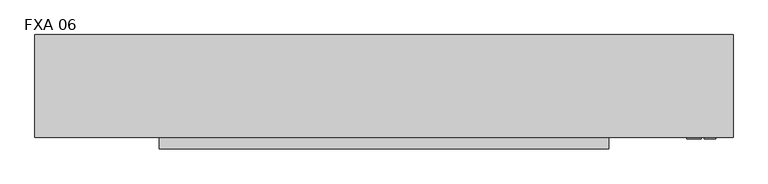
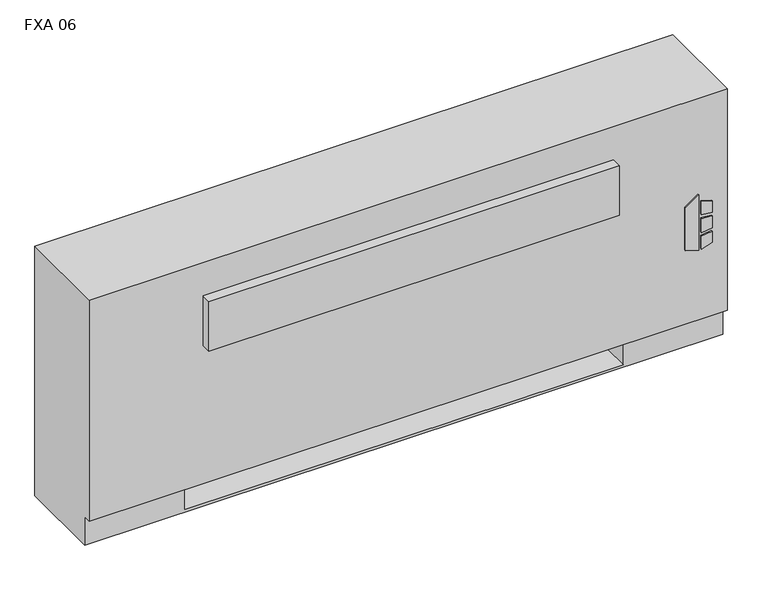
"""IFC4 building model written with IfcOpenShell, lengths in millimetres: proxy geometry, Vertical_Fan_Coil_Unit_-_FXA_-_IEC_-_4-Pipe_FS-FR_LH_2022 : FXA 06."""

from ifc_helpers import new_model, si_unit, point, frame, frame_2d, origin, place, context, project, spatial, polyline, circle_curve, trimmed, segment, composite_curve, outline, extrude, source, transform, mapped, element, save
from ifc_brep_helpers import plane_surface, revolved_surface, advanced_brep


def fxa_06_ef809db3(model_context):
    return source(origin(), model_context, "Body", "SolidModel", [
        extrude(outline(polyline([(263.9480703, 823.9868862), (254.0, 856.1602728), (396.1709244, 856.1602728), (373.1489183, 823.9868862), (263.9480703, 823.9868862)])), frame((0.0, 12.7, 0.0), z_axis=(0.0, 1.0, 0.0), x_axis=(0.0, 0.0, 1.0)), (0.0, 0.0, 1.0), 3.175),
        extrude(outline(polyline([(342.9473557, 862.9186058), (339.7449632, 889.0), (368.9738042, 889.0), (377.0382193, 862.9186058), (342.9473557, 862.9186058)])), frame((0.0, 12.7, 0.0), z_axis=(0.0, 1.0, 0.0), x_axis=(0.0, 0.0, 1.0)), (0.0, 0.0, 1.0), 3.175),
        extrude(outline(polyline([(291.0838288, 889.0), (287.4183279, 862.9186058), (254.0, 862.9186058), (262.6342372, 889.0), (291.0838288, 889.0)])), frame((0.0, 12.7, 0.0), z_axis=(0.0, 1.0, 0.0), x_axis=(0.0, 0.0, 1.0)), (0.0, 0.0, 1.0), 3.175),
        extrude(outline(polyline([(330.3989903, 889.0), (332.6808166, 862.9186058), (296.7432681, 862.9186058), (299.4845331, 889.0), (330.3989903, 889.0)])), frame((0.0, 12.7, 0.0), z_axis=(0.0, 1.0, 0.0), x_axis=(0.0, 0.0, 1.0)), (0.0, 0.0, 1.0), 3.175),
        extrude(outline(polyline([(806.45, 223.266), (806.45, 81.534), (685.8, 81.534), (685.8, 223.266), (806.45, 223.266)])), frame((0.0, 0.0, 327.025), z_axis=(0.0, 0.0, 1.0), x_axis=(1.0, 0.0, 0.0)), (0.0, 0.0, 1.0), 260.35),
        extrude(outline(composite_curve([segment(trimmed(circle_curve(frame_2d((-444.5, 130.175)), 9.525), [point((-454.025, 130.175))], [point((-434.975, 130.175))], False, "CARTESIAN"), True, "CONTINUOUS"), segment(trimmed(circle_curve(frame_2d((-444.5, 130.175)), 9.525), [point((-434.975, 130.175))], [point((-454.025, 130.175))], False, "CARTESIAN"), True, "CONTINUOUS")], self_intersect=False)), frame((0.0, 0.0, 101.6), z_axis=(0.0, 0.0, 1.0), x_axis=(1.0, 0.0, 0.0)), (0.0, 0.0, 1.0), 25.4),
        extrude(outline(polyline([(-546.1, 63.5), (-546.1, 196.85), (-381.0, 196.85), (-381.0, 63.5), (-546.1, 63.5)])), frame((0.0, 0.0, 127.0), z_axis=(0.0, 0.0, 1.0), x_axis=(1.0, 0.0, 0.0)), (0.0, 0.0, 1.0), 50.8),
        extrude(outline(polyline([(650.875, -9.525), (-346.075, -9.525), (-346.075, 15.875), (650.875, 15.875), (650.875, -9.525)])), frame((0.0, 0.0, 428.625), z_axis=(0.0, 0.0, 1.0), x_axis=(1.0, 0.0, 0.0)), (0.0, 0.0, 1.0), 127.0),
        extrude(outline(composite_curve([segment(trimmed(circle_curve(frame_2d((107.95, 457.2)), 7.9375), [point((107.95, 465.1375))], [point((107.95, 449.2625))], False, "CARTESIAN"), True, "CONTINUOUS"), segment(trimmed(circle_curve(frame_2d((107.95, 457.2)), 7.9375), [point((107.95, 449.2625))], [point((107.95, 465.1375))], False, "CARTESIAN"), True, "CONTINUOUS")], self_intersect=False)), frame((-431.8, 0.0, 0.0), z_axis=(1.0, 0.0, 0.0), x_axis=(0.0, 1.0, 0.0)), (0.0, 0.0, 1.0), 50.8),
        extrude(outline(composite_curve([segment(trimmed(circle_curve(frame_2d((155.575, 431.8)), 7.9375), [point((155.575, 439.7375))], [point((155.575, 423.8625))], False, "CARTESIAN"), True, "CONTINUOUS"), segment(trimmed(circle_curve(frame_2d((155.575, 431.8)), 7.9375), [point((155.575, 423.8625))], [point((155.575, 439.7375))], False, "CARTESIAN"), True, "CONTINUOUS")], self_intersect=False)), frame((-431.8, 0.0, 0.0), z_axis=(1.0, 0.0, 0.0), x_axis=(0.0, 1.0, 0.0)), (0.0, 0.0, 1.0), 50.8),
        extrude(outline(composite_curve([segment(trimmed(circle_curve(frame_2d((130.175, 554.99)), 7.9502), [point((130.175, 562.9402))], [point((130.175, 547.0398))], False, "CARTESIAN"), True, "CONTINUOUS"), segment(trimmed(circle_curve(frame_2d((130.175, 554.99)), 7.9502), [point((130.175, 547.0398))], [point((130.175, 562.9402))], False, "CARTESIAN"), True, "CONTINUOUS")], self_intersect=False)), frame((-431.8, 0.0, 0.0), z_axis=(1.0, 0.0, 0.0), x_axis=(0.0, 1.0, 0.0)), (0.0, 0.0, 1.0), 50.8),
        extrude(outline(composite_curve([segment(trimmed(circle_curve(frame_2d((53.975, 416.56)), 7.9502), [point((53.975, 424.5102))], [point((53.975, 408.6098))], False, "CARTESIAN"), True, "CONTINUOUS"), segment(trimmed(circle_curve(frame_2d((53.975, 416.56)), 7.9502), [point((53.975, 408.6098))], [point((53.975, 424.5102))], False, "CARTESIAN"), True, "CONTINUOUS")], self_intersect=False)), frame((-431.8, 0.0, 0.0), z_axis=(1.0, 0.0, 0.0), x_axis=(0.0, 1.0, 0.0)), (0.0, 0.0, 1.0), 50.8),
        advanced_brep(
        [(927.1, 244.475, 641.35), (-622.3, 244.475, 641.35), (-622.3, 15.875, 641.35), (927.1, 15.875, 641.35), (-622.3, 244.475, 0.0), (927.1, 244.475, 0.0), (927.1, 34.925, 0.0), (-622.3, 34.925, 0.0), (685.8, 244.475, 73.025), (914.4, 244.475, 73.025), (914.4, 244.475, 628.65), (685.8, 244.475, 628.65), (685.8, 244.475, 414.8650565), (714.375, 244.475, 414.8650565), (714.375, 244.475, 385.2349435), (685.8, 244.475, 385.2349435), (685.8, 244.475, 287.3375), (714.375, 244.475, 287.3375), (714.375, 244.475, 258.7625), (685.8, 244.475, 258.7625), (685.8, 244.475, 141.2875), (714.375, 244.475, 141.2875), (714.375, 244.475, 112.7125), (685.8, 244.475, 112.7125), (-381.0, 244.475, 628.65), (-609.6, 244.475, 628.65), (-609.6, 244.475, 73.025), (-381.0, 244.475, 73.025), (-381.0, 244.475, 112.7125), (-409.575, 244.475, 112.7125), (-409.575, 244.475, 141.2875), (-381.0, 244.475, 141.2875), (-381.0, 244.475, 258.7625), (-409.575, 244.475, 258.7625), (-409.575, 244.475, 287.3375), (-381.0, 244.475, 287.3375), (-381.0, 244.475, 385.2349435), (-409.575, 244.475, 385.2349435), (-409.575, 244.475, 414.8650565), (-381.0, 244.475, 414.8650565), (704.0626, 244.475, 127.0), (692.9374, 244.475, 127.0), (704.0626, 244.475, 400.05), (692.9374, 244.475, 400.05), (704.0626, 244.475, 273.05), (692.9374, 244.475, 273.05), (-388.1374, 244.475, 127.0), (-399.2626, 244.475, 127.0), (-388.1374, 244.475, 273.05), (-399.2626, 244.475, 273.05), (-388.1374, 244.475, 400.05), (-399.2626, 244.475, 400.05), (-622.3, 34.925, 73.025), (-622.3, 15.875, 73.025), (927.1, 15.875, 73.025), (927.1, 34.925, 73.025), (-381.0, 34.925, 73.025), (-381.0, 219.075, 73.025), (685.8, 219.075, 73.025), (685.8, 34.925, 73.025), (685.8, 34.925, 6.35), (-381.0, 34.925, 6.35), (685.8, 41.275, 628.65), (914.4, 41.275, 628.65), (914.4, 41.275, 73.025), (685.8, 41.275, 73.025), (-381.0, 41.275, 628.65), (-381.0, 41.275, 73.025), (-609.6, 41.275, 73.025), (-609.6, 41.275, 628.65), (685.8, 219.075, 73.025), (685.8, 238.125, 112.7125), (685.8, 238.125, 141.2875), (685.8, 238.125, 258.7625), (685.8, 238.125, 287.3375), (685.8, 238.125, 385.2349435), (685.8, 238.125, 414.8650565), (-381.0, 219.075, 73.025), (-381.0, 238.125, 414.8650565), (-381.0, 238.125, 385.2349435), (-381.0, 238.125, 287.3375), (-381.0, 238.125, 258.7625), (-381.0, 238.125, 141.2875), (-381.0, 238.125, 112.7125), (-381.0, 219.075, 6.35), (685.8, 219.075, 6.35), (714.375, 238.125, 112.7125), (714.375, 238.125, 141.2875), (692.9374, 238.125, 127.0), (704.0626, 238.125, 127.0), (714.375, 238.125, 258.7625), (714.375, 238.125, 287.3375), (692.9374, 238.125, 273.05), (704.0626, 238.125, 273.05), (714.375, 238.125, 385.2349435), (714.375, 238.125, 414.8650565), (692.9374, 238.125, 400.05), (704.0626, 238.125, 400.05), (-409.575, 238.125, 141.2875), (-409.575, 238.125, 112.7125), (-399.2626, 238.125, 127.0), (-388.1374, 238.125, 127.0), (-409.575, 238.125, 287.3375), (-409.575, 238.125, 258.7625), (-399.2626, 238.125, 273.05), (-388.1374, 238.125, 273.05), (-409.575, 238.125, 414.8650565), (-409.575, 238.125, 385.2349435), (-399.2626, 238.125, 400.05), (-388.1374, 238.125, 400.05)],
        [
            (0, 1),
            (1, 2),
            (2, 3),
            (3, 0),
            (4, 5),
            (5, 6),
            (6, 7),
            (7, 4),
            (0, 5),
            (4, 1),
            (8, 9),
            (9, 10),
            (10, 11),
            (11, 12),
            (12, 13),
            (13, 14),
            (14, 15),
            (15, 16),
            (16, 17),
            (17, 18),
            (18, 19),
            (19, 20),
            (20, 21),
            (21, 22),
            (22, 23),
            (23, 8),
            (24, 25),
            (25, 26),
            (26, 27),
            (27, 28),
            (28, 29),
            (29, 30),
            (30, 31),
            (31, 32),
            (32, 33),
            (33, 34),
            (34, 35),
            (35, 36),
            (36, 37),
            (37, 38),
            (38, 39),
            (39, 24),
            (40, 41, circle_curve(frame((698.5, 244.475, 127.0), z_axis=(0.0, -1.0, 0.0), x_axis=(-1.0, 0.0, 0.0)), 5.5626)),
            (41, 40, circle_curve(frame((698.5, 244.475, 127.0), z_axis=(0.0, -1.0, 0.0), x_axis=(-1.0, 0.0, 0.0)), 5.5626)),
            (42, 43, circle_curve(frame((698.5, 244.475, 400.05), z_axis=(0.0, -1.0, 0.0), x_axis=(-1.0, 0.0, 0.0)), 5.5626)),
            (43, 42, circle_curve(frame((698.5, 244.475, 400.05), z_axis=(0.0, -1.0, 0.0), x_axis=(-1.0, 0.0, 0.0)), 5.5626)),
            (44, 45, circle_curve(frame((698.5, 244.475, 273.05), z_axis=(0.0, -1.0, 0.0), x_axis=(-1.0, 0.0, 0.0)), 5.5626)),
            (45, 44, circle_curve(frame((698.5, 244.475, 273.05), z_axis=(0.0, -1.0, 0.0), x_axis=(-1.0, 0.0, 0.0)), 5.5626)),
            (46, 47, circle_curve(frame((-393.7, 244.475, 127.0), z_axis=(0.0, -1.0, 0.0), x_axis=(-1.0, 0.0, 0.0)), 5.5626)),
            (47, 46, circle_curve(frame((-393.7, 244.475, 127.0), z_axis=(0.0, -1.0, 0.0), x_axis=(-1.0, 0.0, 0.0)), 5.5626)),
            (48, 49, circle_curve(frame((-393.7, 244.475, 273.05), z_axis=(0.0, -1.0, 0.0), x_axis=(-1.0, 0.0, 0.0)), 5.5626)),
            (49, 48, circle_curve(frame((-393.7, 244.475, 273.05), z_axis=(0.0, -1.0, 0.0), x_axis=(-1.0, 0.0, 0.0)), 5.5626)),
            (50, 51, circle_curve(frame((-393.7, 244.475, 400.05), z_axis=(0.0, -1.0, 0.0), x_axis=(-1.0, 0.0, 0.0)), 5.5626)),
            (51, 50, circle_curve(frame((-393.7, 244.475, 400.05), z_axis=(0.0, -1.0, 0.0), x_axis=(-1.0, 0.0, 0.0)), 5.5626)),
            (7, 52),
            (52, 53),
            (53, 2),
            (53, 54),
            (54, 3),
            (54, 55),
            (55, 6),
            (52, 56),
            (56, 57),
            (57, 58),
            (58, 59),
            (59, 55),
            (59, 60),
            (60, 61),
            (61, 56),
            (62, 63),
            (63, 64),
            (64, 65),
            (65, 62),
            (66, 67),
            (67, 68),
            (68, 69),
            (69, 66),
            (65, 70),
            (70, 8),
            (23, 71),
            (71, 72),
            (72, 20),
            (19, 73),
            (73, 74),
            (74, 16),
            (15, 75),
            (75, 76),
            (76, 12),
            (11, 62),
            (64, 9),
            (63, 10),
            (69, 25),
            (24, 66),
            (68, 26),
            (67, 77),
            (77, 27),
            (39, 78),
            (78, 79),
            (79, 36),
            (35, 80),
            (80, 81),
            (81, 32),
            (31, 82),
            (82, 83),
            (83, 28),
            (57, 84),
            (84, 85),
            (85, 58),
            (85, 60),
            (84, 61),
            (71, 86),
            (86, 87),
            (87, 72),
            (88, 89, circle_curve(frame((698.5, 238.125, 127.0), z_axis=(0.0, 1.0, 0.0), x_axis=(-1.0, 0.0, 0.0)), 5.5626)),
            (89, 88, circle_curve(frame((698.5, 238.125, 127.0), z_axis=(0.0, 1.0, 0.0), x_axis=(-1.0, 0.0, 0.0)), 5.5626)),
            (73, 90),
            (90, 91),
            (91, 74),
            (92, 93, circle_curve(frame((698.5, 238.125, 273.05), z_axis=(0.0, 1.0, 0.0), x_axis=(-1.0, 0.0, 0.0)), 5.5626)),
            (93, 92, circle_curve(frame((698.5, 238.125, 273.05), z_axis=(0.0, 1.0, 0.0), x_axis=(-1.0, 0.0, 0.0)), 5.5626)),
            (75, 94),
            (94, 95),
            (95, 76),
            (96, 97, circle_curve(frame((698.5, 238.125, 400.05), z_axis=(0.0, 1.0, 0.0), x_axis=(-1.0, 0.0, 0.0)), 5.5626)),
            (97, 96, circle_curve(frame((698.5, 238.125, 400.05), z_axis=(0.0, 1.0, 0.0), x_axis=(-1.0, 0.0, 0.0)), 5.5626)),
            (98, 99),
            (99, 83),
            (82, 98),
            (100, 101, circle_curve(frame((-393.7, 238.125, 127.0), z_axis=(0.0, 1.0, 0.0), x_axis=(-1.0, 0.0, 0.0)), 5.5626)),
            (101, 100, circle_curve(frame((-393.7, 238.125, 127.0), z_axis=(0.0, 1.0, 0.0), x_axis=(-1.0, 0.0, 0.0)), 5.5626)),
            (102, 103),
            (103, 81),
            (80, 102),
            (104, 105, circle_curve(frame((-393.7, 238.125, 273.05), z_axis=(0.0, 1.0, 0.0), x_axis=(-1.0, 0.0, 0.0)), 5.5626)),
            (105, 104, circle_curve(frame((-393.7, 238.125, 273.05), z_axis=(0.0, 1.0, 0.0), x_axis=(-1.0, 0.0, 0.0)), 5.5626)),
            (106, 107),
            (107, 79),
            (78, 106),
            (108, 109, circle_curve(frame((-393.7, 238.125, 400.05), z_axis=(0.0, 1.0, 0.0), x_axis=(-1.0, 0.0, 0.0)), 5.5626)),
            (109, 108, circle_curve(frame((-393.7, 238.125, 400.05), z_axis=(0.0, 1.0, 0.0), x_axis=(-1.0, 0.0, 0.0)), 5.5626)),
            (87, 21),
            (86, 22),
            (91, 17),
            (90, 18),
            (95, 13),
            (94, 14),
            (30, 98),
            (99, 29),
            (34, 102),
            (103, 33),
            (38, 106),
            (107, 37),
            (88, 41),
            (40, 89),
            (96, 43),
            (42, 97),
            (92, 45),
            (44, 93),
            (100, 47),
            (46, 101),
            (104, 49),
            (48, 105),
            (108, 51),
            (50, 109),
        ],
        [
            plane_surface(frame((-622.3, 244.475, 641.35), z_axis=(0.0, 0.0, 1.0), x_axis=(-1.0, 0.0, 0.0))),
            plane_surface(frame((-622.3, 244.475, 0.0), z_axis=(0.0, 0.0, -1.0), x_axis=(1.0, 0.0, 0.0))),
            plane_surface(frame((927.1, 244.475, 641.35), z_axis=(0.0, 1.0, 0.0), x_axis=(0.0, 0.0, -1.0))),
            plane_surface(frame((-622.3, 244.475, 641.35), z_axis=(-1.0, 0.0, 0.0), x_axis=(0.0, 0.0, -1.0))),
            plane_surface(frame((-622.3, 15.875, 641.35), z_axis=(0.0, -1.0, 0.0), x_axis=(0.0, 0.0, -1.0))),
            plane_surface(frame((927.1, 15.875, 641.35), z_axis=(1.0, 0.0, 0.0), x_axis=(0.0, 0.0, -1.0))),
            plane_surface(frame((-622.3, 15.875, 73.025), z_axis=(0.0, 0.0, -1.0), x_axis=(1.0, 0.0, 0.0))),
            plane_surface(frame((-622.3, 34.925, 73.025), z_axis=(0.0, -1.0, 0.0), x_axis=(1.0, 0.0, 0.0))),
            plane_surface(frame((685.8, 41.275, 628.65), z_axis=(0.0, 1.0, 0.0), x_axis=(0.0, 0.0, -1.0))),
            plane_surface(frame((685.8, 41.275, 628.65), z_axis=(1.0, 0.0, 0.0), x_axis=(0.0, 1.0, 0.0))),
            plane_surface(frame((685.8, 41.275, 73.025), z_axis=(0.0, 0.0, 1.0), x_axis=(0.0, 1.0, 0.0))),
            plane_surface(frame((914.4, 41.275, 73.025), z_axis=(-1.0, 0.0, 0.0), x_axis=(0.0, 1.0, 0.0))),
            plane_surface(frame((914.4, 41.275, 628.65), z_axis=(0.0, 0.0, -1.0), x_axis=(0.0, 1.0, 0.0))),
            plane_surface(frame((-381.0, 41.275, 628.65), z_axis=(0.0, 0.0, -1.0), x_axis=(0.0, 1.0, 0.0))),
            plane_surface(frame((-609.6, 41.275, 628.65), z_axis=(1.0, 0.0, 0.0), x_axis=(0.0, 1.0, 0.0))),
            plane_surface(frame((-609.6, 41.275, 73.025), z_axis=(0.0, 0.0, 1.0), x_axis=(0.0, 1.0, 0.0))),
            plane_surface(frame((-381.0, 41.275, 73.025), z_axis=(-1.0, 0.0, 0.0), x_axis=(0.0, 1.0, 0.0))),
            plane_surface(frame((685.8, 219.075, 73.025), z_axis=(0.0, -1.0, 0.0), x_axis=(0.0, 0.0, -1.0))),
            plane_surface(frame((685.8, 219.075, 73.025), z_axis=(-1.0, 0.0, 0.0), x_axis=(0.0, -1.0, 0.0))),
            plane_surface(frame((685.8, 219.075, 6.35), z_axis=(0.0, 0.0, 1.0), x_axis=(0.0, -1.0, 0.0))),
            plane_surface(frame((-381.0, 219.075, 6.35), z_axis=(1.0, 0.0, 0.0), x_axis=(0.0, -1.0, 0.0))),
            plane_surface(frame((714.375, 238.125, 141.2875), z_axis=(0.0, -1.0, 0.0), x_axis=(-1.0, 0.0, 0.0))),
            plane_surface(frame((685.8, 244.475, 141.2875), z_axis=(0.0, 0.0, 1.0), x_axis=(0.0, -1.0, 0.0))),
            plane_surface(frame((714.375, 244.475, 141.2875), z_axis=(1.0, 0.0, 0.0), x_axis=(0.0, -1.0, 0.0))),
            plane_surface(frame((714.375, 244.475, 112.7125), z_axis=(0.0, 0.0, -1.0), x_axis=(0.0, -1.0, 0.0))),
            plane_surface(frame((685.8, 244.475, 287.3375), z_axis=(0.0, 0.0, 1.0), x_axis=(0.0, -1.0, 0.0))),
            plane_surface(frame((714.375, 244.475, 287.3375), z_axis=(1.0, 0.0, 0.0), x_axis=(0.0, -1.0, 0.0))),
            plane_surface(frame((714.375, 244.475, 258.7625), z_axis=(0.0, 0.0, -1.0), x_axis=(0.0, -1.0, 0.0))),
            plane_surface(frame((685.8, 244.475, 414.8650565), z_axis=(0.0, 0.0, 1.0), x_axis=(0.0, -1.0, 0.0))),
            plane_surface(frame((714.375, 244.475, 414.8650565), z_axis=(1.0, 0.0, 0.0), x_axis=(0.0, -1.0, 0.0))),
            plane_surface(frame((714.375, 244.475, 385.2349435), z_axis=(0.0, 0.0, -1.0), x_axis=(0.0, -1.0, 0.0))),
            plane_surface(frame((-409.575, 244.475, 141.2875), z_axis=(0.0, 0.0, 1.0), x_axis=(0.0, -1.0, 0.0))),
            plane_surface(frame((-381.0, 244.475, 112.7125), z_axis=(0.0, 0.0, -1.0), x_axis=(0.0, -1.0, 0.0))),
            plane_surface(frame((-409.575, 244.475, 112.7125), z_axis=(-1.0, 0.0, 0.0), x_axis=(0.0, -1.0, 0.0))),
            plane_surface(frame((-409.575, 244.475, 287.3375), z_axis=(0.0, 0.0, 1.0), x_axis=(0.0, -1.0, 0.0))),
            plane_surface(frame((-381.0, 244.475, 258.7625), z_axis=(0.0, 0.0, -1.0), x_axis=(0.0, -1.0, 0.0))),
            plane_surface(frame((-409.575, 244.475, 258.7625), z_axis=(-1.0, 0.0, 0.0), x_axis=(0.0, -1.0, 0.0))),
            plane_surface(frame((-409.575, 244.475, 414.8650565), z_axis=(0.0, 0.0, 1.0), x_axis=(0.0, -1.0, 0.0))),
            plane_surface(frame((-381.0, 244.475, 385.2349435), z_axis=(0.0, 0.0, -1.0), x_axis=(0.0, -1.0, 0.0))),
            plane_surface(frame((-409.575, 244.475, 385.2349435), z_axis=(-1.0, 0.0, 0.0), x_axis=(0.0, -1.0, 0.0))),
            revolved_surface(polyline([(692.9374, 238.125, 127.0), (692.9374, 244.475, 127.0)]), (698.5, 244.475, 127.0), (0.0, -1.0, 0.0)),
            revolved_surface(polyline([(692.9374, 238.125, 400.05), (692.9374, 244.475, 400.05)]), (698.5, 244.475, 400.05), (0.0, -1.0, 0.0)),
            revolved_surface(polyline([(692.9374, 238.125, 273.05), (692.9374, 244.475, 273.05)]), (698.5, 244.475, 273.05), (0.0, -1.0, 0.0)),
            revolved_surface(polyline([(-399.26259999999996, 238.125, 127.0), (-399.26259999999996, 244.475, 127.0)]), (-393.7, 244.475, 127.0), (0.0, -1.0, 0.0)),
            revolved_surface(polyline([(-399.26259999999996, 238.125, 273.05), (-399.26259999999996, 244.475, 273.05)]), (-393.7, 244.475, 273.05), (0.0, -1.0, 0.0)),
            revolved_surface(polyline([(-399.26259999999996, 238.125, 400.05), (-399.26259999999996, 244.475, 400.05)]), (-393.7, 244.475, 400.05), (0.0, -1.0, 0.0)),
        ],
        [
            (0, [[1, 2, 3, 4]]),
            (1, [[5, 6, 7, 8]]),
            (2, [[-1, 9, -5, 10], [11, 12, 13, 14, 15, 16, 17, 18, 19, 20, 21, 22, 23, 24, 25, 26], [27, 28, 29, 30, 31, 32, 33, 34, 35, 36, 37, 38, 39, 40, 41, 42], [43, 44], [45, 46], [47, 48], [49, 50], [51, 52], [53, 54]]),
            (3, [[-2, -10, -8, 55, 56, 57]]),
            (4, [[-3, -57, 58, 59]]),
            (5, [[-4, -59, 60, 61, -6, -9]]),
            (6, [[-56, 62, 63, 64, 65, 66, -60, -58]]),
            (7, [[-7, -61, -66, 67, 68, 69, -62, -55]]),
            (8, [[70, 71, 72, 73]]),
            (8, [[74, 75, 76, 77]]),
            (9, [[-73, 78, 79, -26, 80, 81, 82, -22, 83, 84, 85, -18, 86, 87, 88, -14, 89]]),
            (10, [[-72, 90, -11, -79, -78]]),
            (11, [[-71, 91, -12, -90]]),
            (12, [[-70, -89, -13, -91]]),
            (13, [[-77, 92, -27, 93]]),
            (14, [[-76, 94, -28, -92]]),
            (15, [[-75, 95, 96, -29, -94]]),
            (16, [[-74, -93, -42, 97, 98, 99, -38, 100, 101, 102, -34, 103, 104, 105, -30, -96, -95]]),
            (17, [[-64, 106, 107, 108]]),
            (18, [[-108, 109, -67, -65]]),
            (19, [[-107, 110, -68, -109]]),
            (20, [[-106, -63, -69, -110]]),
            (21, [[111, 112, 113, -81], [114, 115]]),
            (21, [[116, 117, 118, -84], [119, 120]]),
            (21, [[121, 122, 123, -87], [124, 125]]),
            (21, [[126, 127, -104, 128], [129, 130]]),
            (21, [[131, 132, -101, 133], [134, 135]]),
            (21, [[136, 137, -98, 138], [139, 140]]),
            (22, [[-113, 141, -23, -82]]),
            (23, [[-112, 142, -24, -141]]),
            (24, [[-111, -80, -25, -142]]),
            (25, [[-118, 143, -19, -85]]),
            (26, [[-117, 144, -20, -143]]),
            (27, [[-116, -83, -21, -144]]),
            (28, [[-123, 145, -15, -88]]),
            (29, [[-122, 146, -16, -145]]),
            (30, [[-121, -86, -17, -146]]),
            (31, [[-128, -103, -33, 147]]),
            (32, [[-127, 148, -31, -105]]),
            (33, [[-126, -147, -32, -148]]),
            (34, [[-133, -100, -37, 149]]),
            (35, [[-132, 150, -35, -102]]),
            (36, [[-131, -149, -36, -150]]),
            (37, [[-138, -97, -41, 151]]),
            (38, [[-137, 152, -39, -99]]),
            (39, [[-136, -151, -40, -152]]),
            (40, [[153, -43, 154, -114]]),
            (40, [[-153, -115, -154, -44]]),
            (41, [[155, -45, 156, -124]]),
            (41, [[-155, -125, -156, -46]]),
            (42, [[157, -47, 158, -119]]),
            (42, [[-157, -120, -158, -48]]),
            (43, [[159, -49, 160, -129]]),
            (43, [[-159, -130, -160, -50]]),
            (44, [[161, -51, 162, -134]]),
            (44, [[-161, -135, -162, -52]]),
            (45, [[163, -53, 164, -139]]),
            (45, [[-163, -140, -164, -54]]),
        ],
    ),
    ])


if __name__ == "__main__":
    model = new_model("IFC4")
    model_context = context("Model", 3, world=origin())
    ifc_project = project(units=[si_unit("LENGTHUNIT", "METRE", prefix="MILLI")], contexts=[model_context])
    site = spatial("IfcSite", under=ifc_project)
    building = spatial("IfcBuilding", under=site)
    placement = place(None, origin())
    fxa_06_shape = fxa_06_ef809db3(model_context)
    element("IfcBuildingElementProxy", 1, Name="Vertical_Fan_Coil_Unit_-_FXA_-_IEC_-_4-Pipe_FS-FR_LH_2022 : FXA 06", ObjectType="Vertical_Fan_Coil_Unit_-_FXA_-_IEC_-_4-Pipe_FS-FR_LH_2022 : FXA 06", at=placement, inside=building, context=model_context, shape_type="MappedRepresentation", body=[
        mapped(fxa_06_shape, transform((0.0, 0.0, 0.0), x_axis=(1.0, 0.0, 0.0), y_axis=(0.0, 1.0, 0.0), z_axis=(0.0, 0.0, 1.0))),
    ])
    save(model, "model.ifc")
